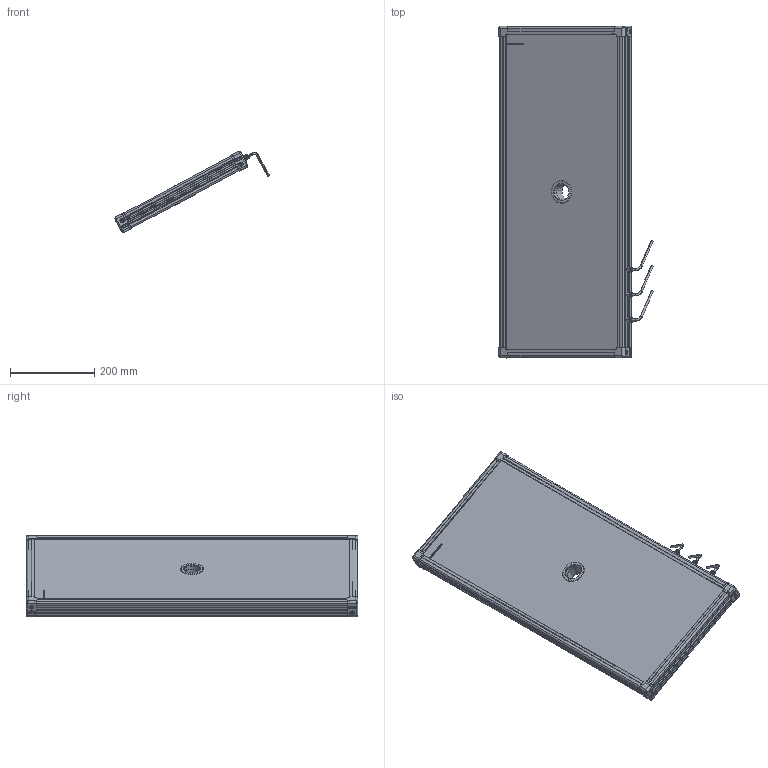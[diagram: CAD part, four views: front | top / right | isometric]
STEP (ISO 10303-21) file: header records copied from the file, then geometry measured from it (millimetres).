
FILE_DESCRIPTION (( 'STEP AP214' ), '1' );
FILE_NAME ('EFFI-FD-300-750-XXX-3M12.STEP', '2021-06-22T11:58:43', ( '' ), ( '' ), 'SwSTEP 2.0', 'SolidWorks 2021', '' );
FILE_SCHEMA (( 'AUTOMOTIVE_DESIGN' ));
Length unit declared in the file: millimetre
Products named in the file (13): 001036; Pièce13^EFFI-FD-XXX-YYY-ZZZ (3 connecteurs) Ø39; profile Y_PERCE; EFFI-FD-300-750-XXX-3M12; profile X_PERCE; 000590; assemblage Ø39; petite joue; 000629; cordon_Avec cable; petite joue + vis; 001035
Assembly tree (21 placements, depth 3):
  EFFI-FD-300-750-XXX-3M12
    profile X_PERCE  x2
    profile Y_PERCE
    profile Y_PERCE
    Pièce13^EFFI-FD-XXX-YYY-ZZZ (3 connecteurs) Ø39
    petite joue + vis  x4
      petite joue
      000629
    assemblage Ø39
      001036
      000590  x3
      001035
    cordon_Avec cable  x3
Bounding box: 366.32 x 789 x 193.94 mm (x, y, z)
Volume: 9204856.9 mm3; surface area: 893273.7 mm2
Topology: 22 solids, 40 shells, 4073 faces, 10811 edges, 7106 vertices
Faces by surface type: plane 2528, cylinder 732, bspline 609, cone 156, torus 48
Entity records: 55817 total; most frequent: CARTESIAN_POINT 22582, ORIENTED_EDGE 6924, DIRECTION 5621, EDGE_CURVE 3466, LINE 2447, VECTOR 2447, VERTEX_POINT 2287, AXIS2_PLACEMENT_3D 1587
